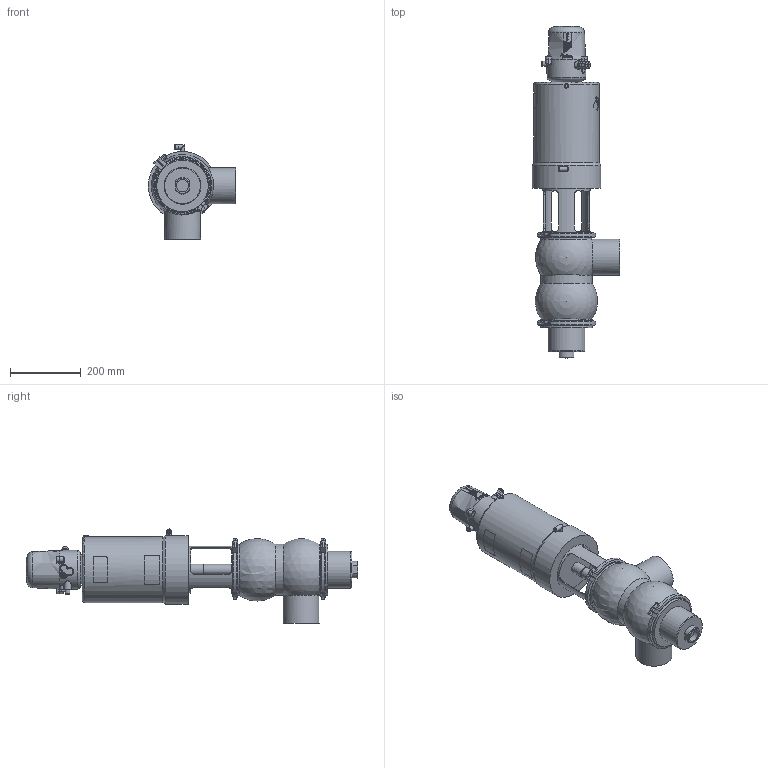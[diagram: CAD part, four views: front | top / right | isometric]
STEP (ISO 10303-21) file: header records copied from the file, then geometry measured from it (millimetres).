
FILE_DESCRIPTION (( 'STEP AP214' ), '1' );
FILE_NAME ('INNOVA S DB-90 W OD 4 & C-TOP S_10.251.16.0018.STEP', '2024-08-19T10:28:07', ( '' ), ( '' ), 'SwSTEP 2.0', 'SolidWorks 2023', '' );
FILE_SCHEMA (( 'AUTOMOTIVE_DESIGN' ));
Length unit declared in the file: millimetre
Products named in the file (7): INNOVA S DB-90 W OD 4 & C-TOP S_10.251.16.0018; 10.426.15.0001_C-TOP S - 1 EV; 10.240.15.0001_DN 100; 10.251.15.0010_OD 4"; 10.251.15.0002_DN 4"; 10.251.15.0001_OD 4"; 10.250.15.0002_Type S T3
Assembly tree (7 placements, depth 2):
  INNOVA S DB-90 W OD 4 & C-TOP S_10.251.16.0018
    10.251.15.0001_OD 4"
    10.250.15.0002_Type S T3
    10.426.15.0001_C-TOP S - 1 EV
    10.251.15.0010_OD 4"
    10.240.15.0001_DN 100  x2
    10.251.15.0002_DN 4"
Bounding box: 246.5 x 935.6 x 265 mm (x, y, z)
Volume: 16140727.1 mm3; surface area: 821319 mm2
Topology: 7 solids, 7 shells, 1184 faces, 2868 edges, 1905 vertices
Faces by surface type: plane 412, cylinder 369, cone 202, bspline 160, torus 33, sphere 8
Full cylindrical faces by diameter (mm): 0.371 x17, 0.512 x16, 0.658 x16, 0.795 x16, 0.94 x15, 1.098 x15, 1.241 x13, 1.382 x13, 1.523 x11, 1.669 x10, 2.201 x1, 4.2 x2, 5 x1, 5.5 x2, 6 x3, 6.15 x1, 8 x5, 8.5 x1, 10 x1, 10.5 x2, 11 x2, 12.5 x6, 13 x2, 13.5 x2, 17 x3, 20 x2, 22 x2, 30.5 x1, 32 x1, 35 x1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
Entity records: 59241 total; most frequent: CARTESIAN_POINT 28522, ORIENTED_EDGE 4590, DIRECTION 3691, EDGE_CURVE 2295, VERTEX_POINT 1623, EDGE_LOOP 1574, AXIS2_PLACEMENT_3D 1506, FACE_OUTER_BOUND 1337
